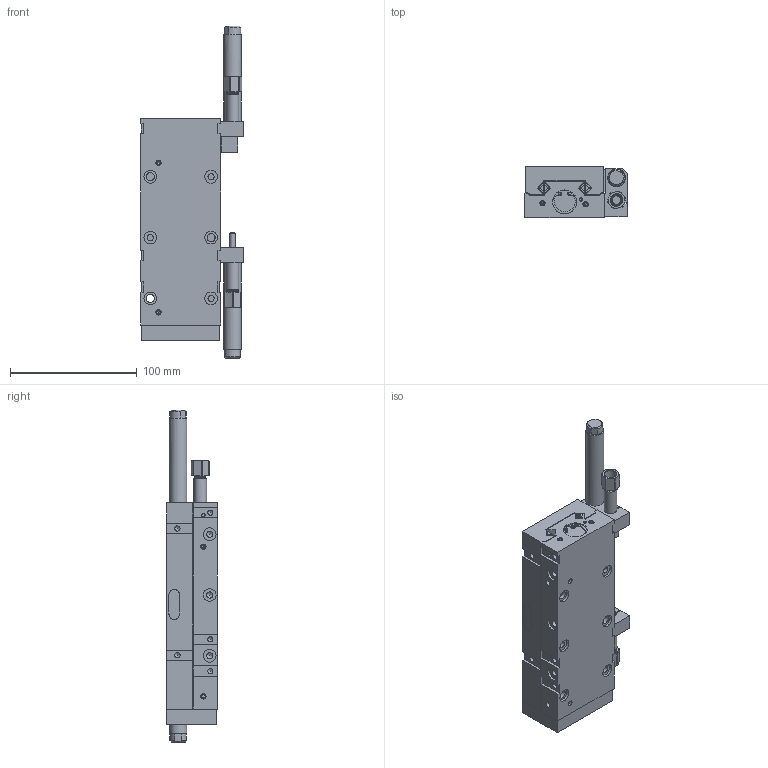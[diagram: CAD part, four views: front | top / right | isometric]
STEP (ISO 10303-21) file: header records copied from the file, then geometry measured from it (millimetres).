
FILE_DESCRIPTION(/* description */ (''),/* implementation_level */ '2;1');
FILE_NAME(/* name */ 'N:\Zeichnungen\Lineareinheiten\Lineareinheit LSK-6(1952)\LSK-6 3d\Neutrale CAD-Formate\Lineareinheit LSK-6-SK-75-H-0-0-P.stp',/* time_stamp */ '2016-02-26T07:40:59+01:00',/* author */ ('gose'),/* organization */ (''),/* preprocessor_version */ 'ST-DEVELOPER v16.1',/* originating_system */ 'Autodesk Inventor 2016',/* authorisation */ '');
FILE_SCHEMA (('AUTOMOTIVE_DESIGN { 1 0 10303 214 3 1 1 }'));
Length unit declared in the file: centimetre
Products named in the file (3): Gehäuse komplett LSK-6-75-H; Führungskopf komplett LSK-6-100; Lineareinheit LSK-6-SK-75-H-0-0-P
Assembly tree (2 placements, depth 2):
  Lineareinheit LSK-6-SK-75-H-0-0-P
    Gehäuse komplett LSK-6-75-H
    Führungskopf komplett LSK-6-100
Bounding box: 80.9 x 40 x 262 mm (x, y, z)
Volume: 417982.6 mm3; surface area: 122624.2 mm2
Topology: 6 solids, 6 shells, 904 faces, 2342 edges, 1528 vertices
Faces by surface type: plane 508, cylinder 248, cone 126, torus 16, sphere 6
Full cylindrical faces by diameter (mm): 2 x4, 2.05 x8, 2.1 x17, 2.2 x15, 2.3 x4, 2.7 x19, 3.242 x2, 4 x1, 4.134 x21, 4.5 x2, 4.917 x17, 6 x1, 6.4 x5, 6.6 x2, 7 x3, 7.3 x2, 8 x4, 8.5 x3, 8.8 x4, 9 x5, 9.1 x1, 9.4 x2, 10 x26, 10.5 x8, 10.8 x2, 11.2 x1, 13 x4, 14 x2, 14.7 x2, 16 x1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
Entity records: 25401 total; most frequent: CARTESIAN_POINT 4607, DIRECTION 4105, ORIENTED_EDGE 3668, EDGE_CURVE 1834, AXIS2_PLACEMENT_3D 1539, EDGE_LOOP 1384, VERTEX_POINT 1344, LINE 1027
